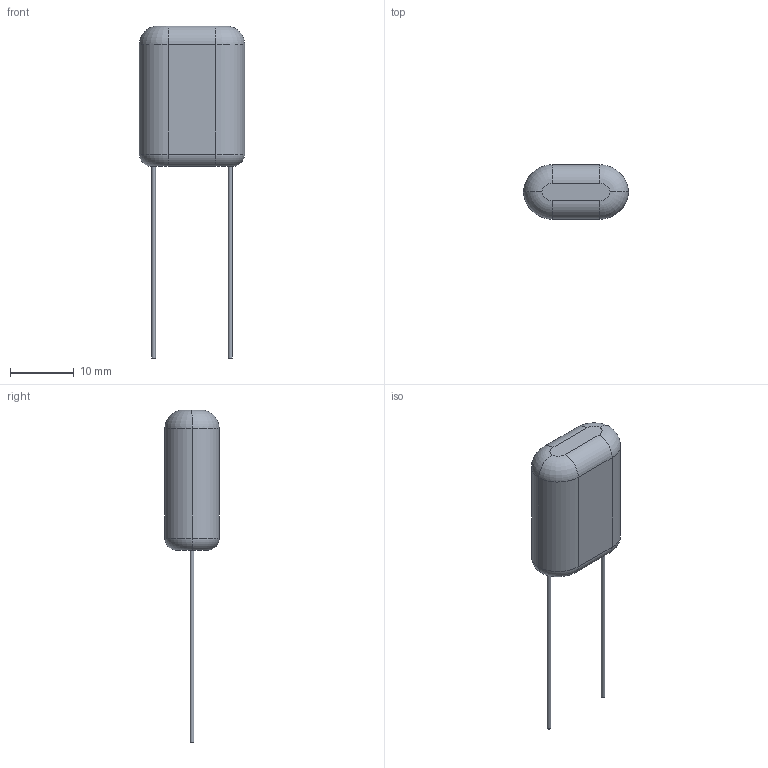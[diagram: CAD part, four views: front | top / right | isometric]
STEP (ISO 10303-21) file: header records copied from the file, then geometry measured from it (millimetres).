
FILE_DESCRIPTION(/* description */ ('STEP AP242','CAx-IF Rec.Pracs.---Representation and Presentation of Product Manufacturing Information (PMI)---4.0---2014-10-13','CAx-IF Rec.Pracs.---3D Tessellated Geometry---0.4---2014-09-14','2;1'),/* implementation_level */ '2;1');
FILE_NAME(/* name */ '66165cbd94fcf15f85a638cb',/* time_stamp */ '2024-04-10T09:32:46Z',/* author */ (''),/* organization */ (''),/* preprocessor_version */ 'ST-DEVELOPER v20',/* originating_system */ ' ',/* authorisation */ ' ');
FILE_SCHEMA (('AP242_MANAGED_MODEL_BASED_3D_ENGINEERING_MIM_LF { 1 0 10303 442 1 1 4 }'));
Length unit declared in the file: metre
Products named in the file (1): Part 1
Bounding box: 16.49 x 8.5 x 52 mm (x, y, z)
Volume: 2619.6 mm3; surface area: 1195.9 mm2
Topology: 1 solids, 1 shells, 24 faces, 49 edges, 29 vertices
Faces by surface type: cylinder 10, torus 8, plane 6
Full cylindrical faces by diameter (mm): 0.6 x2
Entity records: 814 total; most frequent: DIRECTION 120, CARTESIAN_POINT 115, ORIENTED_EDGE 92, AXIS2_PLACEMENT_3D 53, EDGE_CURVE 46, CIRCLE 28, VERTEX_POINT 28, EDGE_LOOP 28
